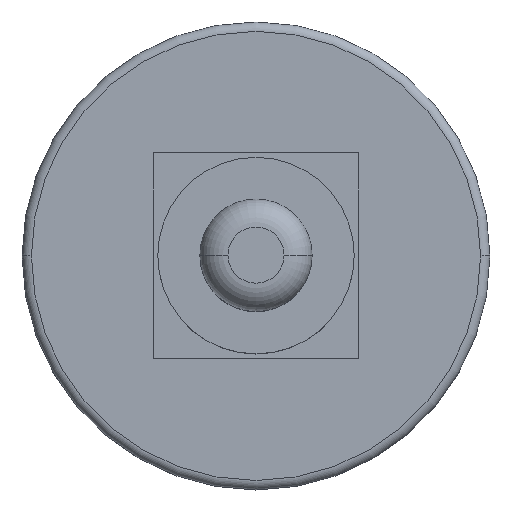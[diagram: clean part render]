
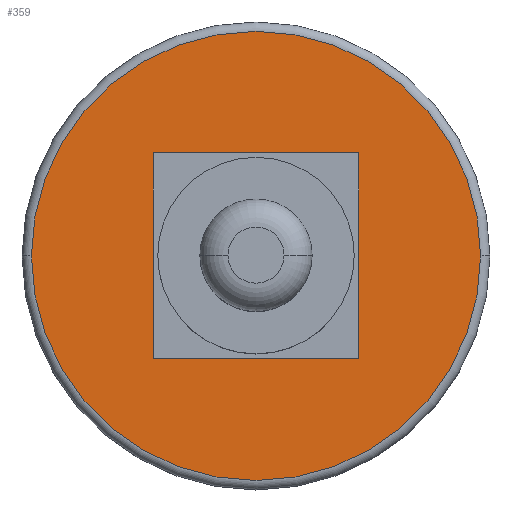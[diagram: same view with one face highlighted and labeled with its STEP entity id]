
A CAD part, top view. The second image highlights one B-rep face of the part: STEP entity #359.
In plain terms, the highlighted planar face has unit normal (0, 0, 1).
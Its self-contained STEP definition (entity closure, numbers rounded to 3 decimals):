
#16 = AXIS2_PLACEMENT_3D ( 'NONE', #280, #186, #276 ) ;
#36 = ORIENTED_EDGE ( 'NONE', *, *, #426, .F. ) ;
#56 = ORIENTED_EDGE ( 'NONE', *, *, #195, .F. ) ;
#60 = VECTOR ( 'NONE', #273, 1000. ) ;
#89 = CARTESIAN_POINT ( 'NONE',  ( -11., 11., 9. ) ) ;
#90 = AXIS2_PLACEMENT_3D ( 'NONE', #217, #400, #352 ) ;
#102 = CARTESIAN_POINT ( 'NONE',  ( -24., 0., 9. ) ) ;
#104 = EDGE_CURVE ( 'NONE', #275, #588, #145, .T. ) ;
#119 = CARTESIAN_POINT ( 'NONE',  ( 24., 0., 9. ) ) ;
#125 = PLANE ( 'NONE',  #90 ) ;
#126 = EDGE_CURVE ( 'NONE', #301, #595, #540, .T. ) ;
#128 = DIRECTION ( 'NONE',  ( 0., 1., 0. ) ) ;
#145 = LINE ( 'NONE', #504, #182 ) ;
#154 = VECTOR ( 'NONE', #128, 1000. ) ;
#181 = CARTESIAN_POINT ( 'NONE',  ( -11., -11., 9. ) ) ;
#182 = VECTOR ( 'NONE', #277, 1000. ) ;
#186 = DIRECTION ( 'NONE',  ( 0., 0., 1. ) ) ;
#190 = CARTESIAN_POINT ( 'NONE',  ( 11., -11., 9. ) ) ;
#195 = EDGE_CURVE ( 'NONE', #567, #275, #465, .T. ) ;
#213 = VERTEX_POINT ( 'NONE', #364 ) ;
#217 = CARTESIAN_POINT ( 'NONE',  ( 0., 0., 9. ) ) ;
#223 = EDGE_LOOP ( 'NONE', ( #521, #507 ) ) ;
#231 = AXIS2_PLACEMENT_3D ( 'NONE', #375, #558, #274 ) ;
#263 = CARTESIAN_POINT ( 'NONE',  ( 11., 11., 9. ) ) ;
#273 = DIRECTION ( 'NONE',  ( 0., -1., 0. ) ) ;
#274 = DIRECTION ( 'NONE',  ( 1., 0., 0. ) ) ;
#275 = VERTEX_POINT ( 'NONE', #289 ) ;
#276 = DIRECTION ( 'NONE',  ( 1., 0., 0. ) ) ;
#277 = DIRECTION ( 'NONE',  ( -1., 0., 0. ) ) ;
#280 = CARTESIAN_POINT ( 'NONE',  ( 0., 0., 9. ) ) ;
#283 = ORIENTED_EDGE ( 'NONE', *, *, #104, .F. ) ;
#289 = CARTESIAN_POINT ( 'NONE',  ( 11., 11., 9. ) ) ;
#292 = LINE ( 'NONE', #181, #528 ) ;
#301 = VERTEX_POINT ( 'NONE', #119 ) ;
#306 = LINE ( 'NONE', #89, #60 ) ;
#352 = DIRECTION ( 'NONE',  ( 1., 0., 0. ) ) ;
#355 = FACE_OUTER_BOUND ( 'NONE', #223, .T. ) ;
#359 = ADVANCED_FACE ( 'NONE', ( #355, #498 ), #125, .T. ) ;
#364 = CARTESIAN_POINT ( 'NONE',  ( -11., -11., 9. ) ) ;
#375 = CARTESIAN_POINT ( 'NONE',  ( 0., 0., 9. ) ) ;
#387 = EDGE_LOOP ( 'NONE', ( #56, #453, #36, #283 ) ) ;
#400 = DIRECTION ( 'NONE',  ( 0., 0., 1. ) ) ;
#426 = EDGE_CURVE ( 'NONE', #588, #213, #306, .T. ) ;
#428 = CIRCLE ( 'NONE', #16, 24. ) ;
#453 = ORIENTED_EDGE ( 'NONE', *, *, #541, .F. ) ;
#465 = LINE ( 'NONE', #263, #154 ) ;
#473 = DIRECTION ( 'NONE',  ( 1., 0., 0. ) ) ;
#498 = FACE_BOUND ( 'NONE', #387, .T. ) ;
#504 = CARTESIAN_POINT ( 'NONE',  ( -11., 11., 9. ) ) ;
#507 = ORIENTED_EDGE ( 'NONE', *, *, #535, .T. ) ;
#518 = CARTESIAN_POINT ( 'NONE',  ( -11., 11., 9. ) ) ;
#521 = ORIENTED_EDGE ( 'NONE', *, *, #126, .T. ) ;
#528 = VECTOR ( 'NONE', #473, 1000. ) ;
#535 = EDGE_CURVE ( 'NONE', #595, #301, #428, .T. ) ;
#540 = CIRCLE ( 'NONE', #231, 24. ) ;
#541 = EDGE_CURVE ( 'NONE', #213, #567, #292, .T. ) ;
#558 = DIRECTION ( 'NONE',  ( 0., 0., 1. ) ) ;
#567 = VERTEX_POINT ( 'NONE', #190 ) ;
#588 = VERTEX_POINT ( 'NONE', #518 ) ;
#595 = VERTEX_POINT ( 'NONE', #102 ) ;
